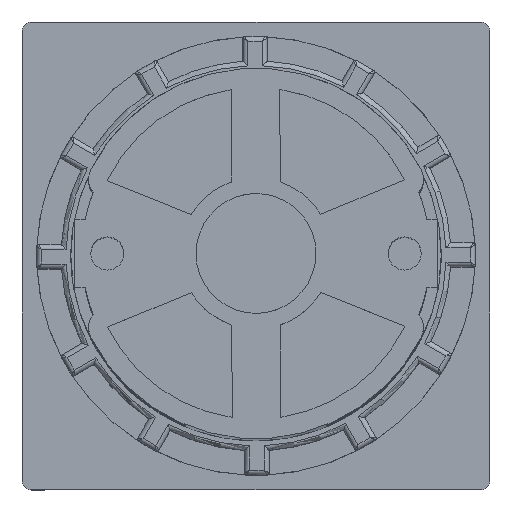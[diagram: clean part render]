
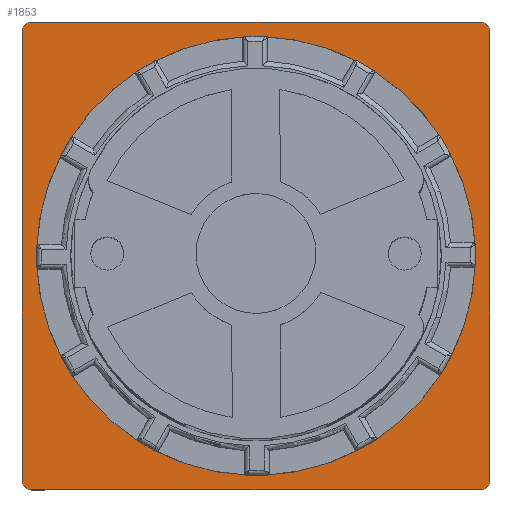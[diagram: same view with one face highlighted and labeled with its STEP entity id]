
A CAD part, top view. The second image highlights one B-rep face of the part: STEP entity #1853.
In plain terms, the highlighted planar face has unit normal (0, 0, 1).
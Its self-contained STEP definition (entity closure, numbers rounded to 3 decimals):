
#810=FACE_BOUND('',#6400,.T.);
#811=FACE_BOUND('',#6401,.T.);
#1853=ADVANCED_FACE('',(#810,#811),#3457,.F.);
#3457=PLANE('',#32132);
#6400=EDGE_LOOP('',(#14965,#14966,#14967,#14968,#14969,#14970,#14971,#14972));
#6401=EDGE_LOOP('',(#14973));
#8583=LINE('',#45309,#11385);
#8584=LINE('',#45314,#11386);
#8585=LINE('',#45318,#11387);
#8586=LINE('',#45322,#11388);
#11385=VECTOR('',#35816,1.);
#11386=VECTOR('',#35819,1.);
#11387=VECTOR('',#35822,1.);
#11388=VECTOR('',#35825,1.);
#14965=ORIENTED_EDGE('',*,*,#26728,.F.);
#14966=ORIENTED_EDGE('',*,*,#26729,.F.);
#14967=ORIENTED_EDGE('',*,*,#26730,.F.);
#14968=ORIENTED_EDGE('',*,*,#26731,.F.);
#14969=ORIENTED_EDGE('',*,*,#26732,.F.);
#14970=ORIENTED_EDGE('',*,*,#26733,.F.);
#14971=ORIENTED_EDGE('',*,*,#26734,.F.);
#14972=ORIENTED_EDGE('',*,*,#26735,.F.);
#14973=ORIENTED_EDGE('',*,*,#26690,.T.);
#23454=VERTEX_POINT('',#45214);
#23472=VERTEX_POINT('',#45310);
#23473=VERTEX_POINT('',#45311);
#23474=VERTEX_POINT('',#45313);
#23475=VERTEX_POINT('',#45315);
#23476=VERTEX_POINT('',#45317);
#23477=VERTEX_POINT('',#45319);
#23478=VERTEX_POINT('',#45321);
#23479=VERTEX_POINT('',#45323);
#26690=EDGE_CURVE('',#23454,#23454,#30786,.T.);
#26728=EDGE_CURVE('',#23472,#23473,#8583,.T.);
#26729=EDGE_CURVE('',#23474,#23472,#30816,.T.);
#26730=EDGE_CURVE('',#23475,#23474,#8584,.T.);
#26731=EDGE_CURVE('',#23476,#23475,#30817,.T.);
#26732=EDGE_CURVE('',#23477,#23476,#8585,.T.);
#26733=EDGE_CURVE('',#23478,#23477,#30818,.T.);
#26734=EDGE_CURVE('',#23479,#23478,#8586,.T.);
#26735=EDGE_CURVE('',#23473,#23479,#30819,.T.);
#30786=CIRCLE('',#32090,22.5);
#30816=CIRCLE('',#32128,1.);
#30817=CIRCLE('',#32129,1.);
#30818=CIRCLE('',#32130,1.);
#30819=CIRCLE('',#32131,1.);
#32090=AXIS2_PLACEMENT_3D('',#45213,#35732,#35733);
#32128=AXIS2_PLACEMENT_3D('',#45312,#35817,#35818);
#32129=AXIS2_PLACEMENT_3D('',#45316,#35820,#35821);
#32130=AXIS2_PLACEMENT_3D('',#45320,#35823,#35824);
#32131=AXIS2_PLACEMENT_3D('',#45324,#35826,#35827);
#32132=AXIS2_PLACEMENT_3D('',#45325,#35828,#35829);
#35732=DIRECTION('',(0.,0.,-1.));
#35733=DIRECTION('',(0.,1.,0.));
#35816=DIRECTION('',(0.,1.,0.));
#35817=DIRECTION('',(0.,0.,-1.));
#35818=DIRECTION('',(1.,0.,0.));
#35819=DIRECTION('',(-1.,0.,0.));
#35820=DIRECTION('',(0.,0.,-1.));
#35821=DIRECTION('',(1.,0.,0.));
#35822=DIRECTION('',(0.,-1.,0.));
#35823=DIRECTION('',(0.,0.,-1.));
#35824=DIRECTION('',(1.,0.,0.));
#35825=DIRECTION('',(1.,0.,0.));
#35826=DIRECTION('',(0.,0.,-1.));
#35827=DIRECTION('',(1.,0.,0.));
#35828=DIRECTION('',(0.,0.,-1.));
#35829=DIRECTION('',(-1.,0.,0.));
#45213=CARTESIAN_POINT('',(0.,0.,-18.4));
#45214=CARTESIAN_POINT('',(0.,22.5,-18.4));
#45309=CARTESIAN_POINT('',(-24.,-23.,-18.4));
#45310=CARTESIAN_POINT('',(-24.,-23.,-18.4));
#45311=CARTESIAN_POINT('',(-24.,23.,-18.4));
#45312=CARTESIAN_POINT('',(-23.,-23.,-18.4));
#45313=CARTESIAN_POINT('',(-23.,-24.,-18.4));
#45314=CARTESIAN_POINT('',(23.,-24.,-18.4));
#45315=CARTESIAN_POINT('',(23.,-24.,-18.4));
#45316=CARTESIAN_POINT('',(23.,-23.,-18.4));
#45317=CARTESIAN_POINT('',(24.,-23.,-18.4));
#45318=CARTESIAN_POINT('',(24.,23.,-18.4));
#45319=CARTESIAN_POINT('',(24.,23.,-18.4));
#45320=CARTESIAN_POINT('',(23.,23.,-18.4));
#45321=CARTESIAN_POINT('',(23.,24.,-18.4));
#45322=CARTESIAN_POINT('',(-23.,24.,-18.4));
#45323=CARTESIAN_POINT('',(-23.,24.,-18.4));
#45324=CARTESIAN_POINT('',(-23.,23.,-18.4));
#45325=CARTESIAN_POINT('',(-23.,23.,-18.4));
